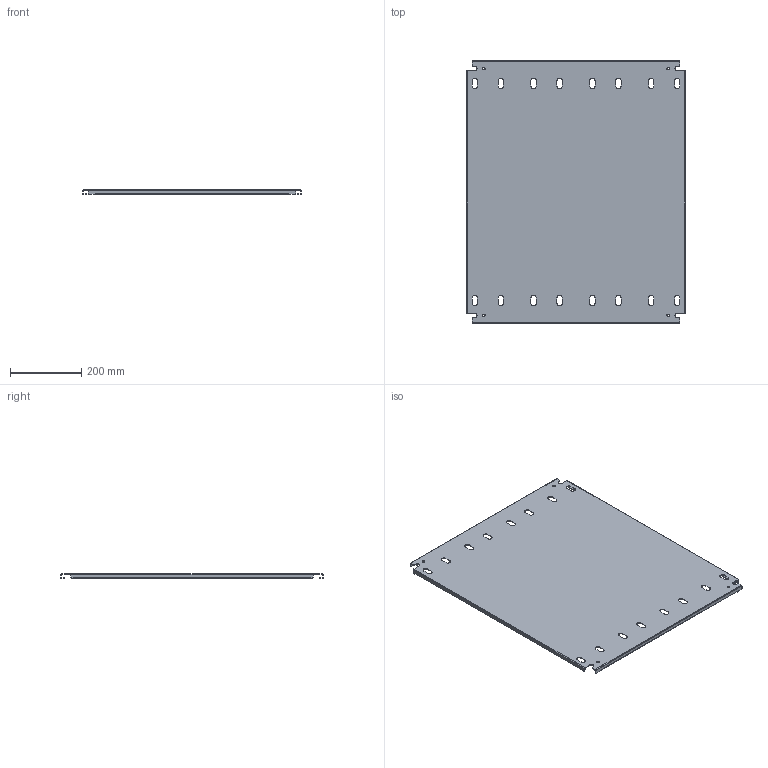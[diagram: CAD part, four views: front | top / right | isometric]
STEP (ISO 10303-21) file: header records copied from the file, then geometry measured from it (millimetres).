
FILE_DESCRIPTION(/* description */ ('1412BTCU 24.125" x 29" Left Inner Panel'),/* implementation_level */ '2;1');
FILE_NAME(/* name */ 'C:\Vault_Workspace\Inventor_Dwg\BoxCad\Result\1412BTCU12804\e-mail\3D\1412BTCU12804IP1.stp',/* time_stamp */ '2022-09-13T04:02:13-04:00',/* author */ ('BoxCad'),/* organization */ (''),/* preprocessor_version */ 'ST-DEVELOPER v18.1',/* originating_system */ 'Autodesk Inventor 2020',/* authorisation */ '');
FILE_SCHEMA (('AUTOMOTIVE_DESIGN { 1 0 10303 214 3 1 1 }'));
Length unit declared in the file: inch
Products named in the file (2): 1412BTCU12804IP1; 1412BTCU12804IP1-P
Assembly tree (1 placements, depth 2):
  1412BTCU12804IP1
    1412BTCU12804IP1-P
Bounding box: 612.77 x 736.6 x 13 mm (x, y, z)
Volume: 844586.2 mm3; surface area: 985319.7 mm2
Topology: 1 solids, 1 shells, 174 faces, 516 edges, 344 vertices
Faces by surface type: plane 98, cylinder 76
Full cylindrical faces by diameter (mm): 7.366 x4
Entity records: 6001 total; most frequent: CARTESIAN_POINT 1037, ORIENTED_EDGE 1032, DIRECTION 1022, EDGE_CURVE 516, LINE 364, VECTOR 364, VERTEX_POINT 344, AXIS2_PLACEMENT_3D 329
